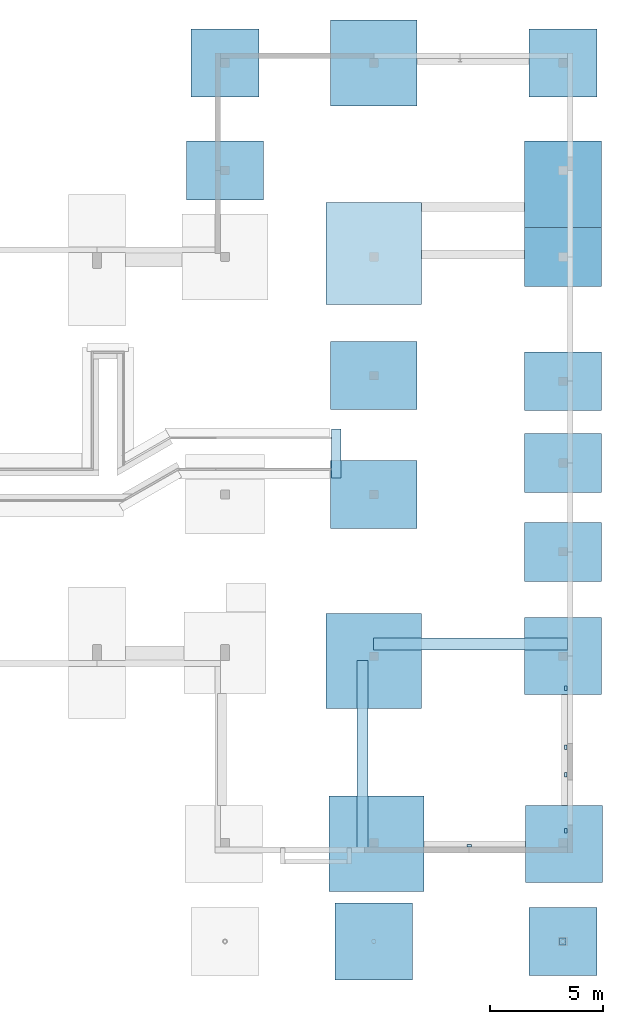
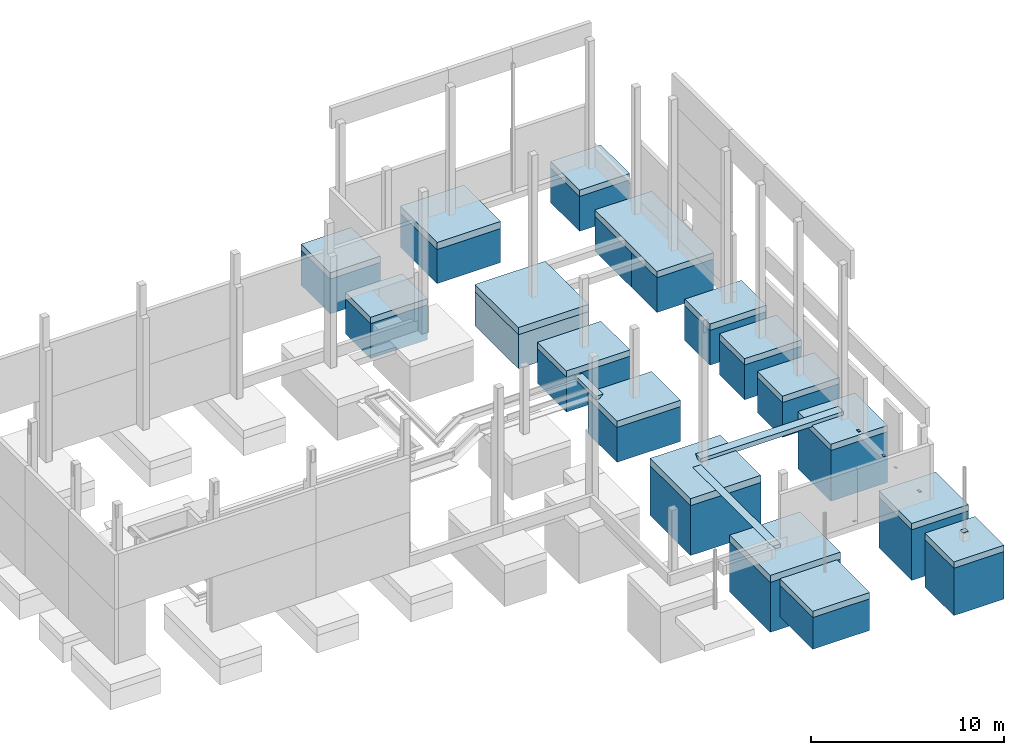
# One storey, part 8 of 12: 38 slabs, 6 plates.
"""IFC4X3_ADD2 building model written with IfcOpenShell, lengths in millimetres."""

from ifc_helpers import new_model, si_unit, direction, frame, frame_2d, origin_with_axes, place, context, subcontext, project, spatial, polyline, rectangle, outline, extrude, material, type_object, element, save


model = new_model("IFC4X3_ADD2")

# Units and contexts
model_context = context("Model", 3, precision=1e-05, world=origin_with_axes(), true_north=direction((0.0, 1.0)))
body_context = subcontext(model_context, "Body", "Model", "MODEL_VIEW")
ifc_project = project(units=[si_unit("LENGTHUNIT", "METRE", prefix="MILLI"), si_unit("AREAUNIT", "SQUARE_METRE"), si_unit("VOLUMEUNIT", "CUBIC_METRE"), si_unit("PLANEANGLEUNIT", "RADIAN"), si_unit("TIMEUNIT", "SECOND"), si_unit("MASSUNIT", "GRAM")], contexts=[model_context])

# Site, building, storey
site_placement = place(None, origin_with_axes())
site = spatial("IfcSite", under=ifc_project, at=site_placement, Name="Site", CompositionType="ELEMENT")
building_placement = place(site_placement, origin_with_axes())
building = spatial("IfcBuilding", under=site, at=building_placement, Name="IFC Building Story")
storey_placement = place(building_placement, frame((0.0, 0.0, -800.0), z_axis=(0.0, 0.0, 1.0), x_axis=(1.0, 0.0, 0.0)))
storey = spatial("IfcBuildingStorey", under=building, at=storey_placement, Name="FOND 00 (0)", Elevation=-800.0)

# Slabs
ifc_material_1 = material(Name="BS_16_Plot en béton armé coulé sur place")
slab_type_1 = type_object("IfcSlabType", Name="BS_16_Plot en béton armé coulé sur place 450", PredefinedType="FLOOR", material=ifc_material_1)
slab_1_placement = place(storey_placement, frame((38061.6894781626, 24450.0, -450.0), z_axis=(0.0, 0.0, 1.0), x_axis=(1.0, 0.0, 0.0)))
element("IfcSlab", 1, at=slab_1_placement, inside=storey, type_object=slab_type_1, Name="BS_17_SFO_UN_Plot rectangulaire:B.A. 380x380x45cm", ObjectType="BS_17_SFO_UN_Plot rectangulaire:B.A. 380x380x45cm", PredefinedType="BASESLAB", context=body_context, shape_type="SweptSolid", body=[
    extrude(rectangle(XDim=3800.0, YDim=3800.0, at=frame_2d((0.0, 5.95523630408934e-12), x_axis=(0.0, 1.0))), frame((1900.0, 1900.0, 0.0), z_axis=(0.0, 0.0, 1.0), x_axis=(1.0, 0.0, 0.0)), (0.0, 0.0, 1.0), 450.0),
])
slab_2_placement = place(storey_placement, frame((37861.6894781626, -2120.0, -450.0), z_axis=(0.0, 0.0, 1.0), x_axis=(1.0, 0.0, 0.0)))
element("IfcSlab", 2, at=slab_2_placement, inside=storey, type_object=slab_type_1, Name="BS_17_SFO_UN_Plot rectangulaire:B.A. 420x420x45cm", ObjectType="BS_17_SFO_UN_Plot rectangulaire:B.A. 420x420x45cm", PredefinedType="BASESLAB", context=body_context, shape_type="SweptSolid", body=[
    extrude(rectangle(XDim=4200.0, YDim=4200.0, at=frame_2d((0.0, 5.95523630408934e-12), x_axis=(0.0, 1.0))), frame((2100.0, 2100.0, 0.0), z_axis=(0.0, 0.0, 1.0), x_axis=(1.0, 0.0, 0.0)), (0.0, 0.0, 1.0), 450.0),
])
slab_3_placement = place(storey_placement, frame((37976.6894781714, -10180.00008672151, -450.0), z_axis=(0.0, 0.0, 1.0), x_axis=(1.0, 0.0, 0.0)))
element("IfcSlab", 3, at=slab_3_placement, inside=storey, type_object=slab_type_1, Name="BS_17_SFO_UN_Plot rectangulaire:B.A. 420x420x45cm", ObjectType="BS_17_SFO_UN_Plot rectangulaire:B.A. 420x420x45cm", PredefinedType="BASESLAB", context=body_context, shape_type="SweptSolid", body=[
    extrude(rectangle(XDim=4199.999999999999, YDim=4200.0, at=frame_2d((0.0, 5.95523630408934e-12), x_axis=(0.0, 1.0))), frame((2100.0, 2100.0, 0.0), z_axis=(0.0, 0.0, 1.0), x_axis=(1.0, 0.0, 0.0)), (0.0, 0.0, 1.0), 450.0),
])
slab_4_placement = place(storey_placement, frame((37861.6894781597, 20195.0000000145, -450.0), z_axis=(0.0, 0.0, 1.0), x_axis=(0.0, -1.0, 0.0)))
element("IfcSlab", 4, at=slab_4_placement, inside=storey, type_object=slab_type_1, Name="BS_17_SFO_UN_Plot rectangulaire:B.A. 420x450x45cm", ObjectType="BS_17_SFO_UN_Plot rectangulaire:B.A. 420x450x45cm", PredefinedType="BASESLAB", context=body_context, shape_type="SweptSolid", body=[
    extrude(rectangle(XDim=4500.000000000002, YDim=4200.0, at=frame_2d((0.0, 5.95523630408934e-12), x_axis=(-1.0, 0.0))), frame((2250.0, 2100.0, 0.0), z_axis=(0.0, 0.0, 1.0), x_axis=(1.0, 0.0, 0.0)), (0.0, 0.0, 1.0), 450.0),
])
slab_type_2 = type_object("IfcSlabType", Name="BS_16_Plot en béton armé coulé sur place 400", PredefinedType="FLOOR", material=ifc_material_1)
slab_5_placement = place(storey_placement, frame((38061.6894781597, 11063.8396532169, -400.0), z_axis=(0.0, 0.0, 1.0), x_axis=(1.0, 0.0, 0.0)))
element("IfcSlab", 5, at=slab_5_placement, inside=storey, type_object=slab_type_2, Name="BS_17_SFO_UN_Plot rectangulaire:B.A. 380x300x40cm", ObjectType="BS_17_SFO_UN_Plot rectangulaire:B.A. 380x300x40cm", PredefinedType="BASESLAB", context=body_context, shape_type="SweptSolid", body=[
    extrude(rectangle(XDim=3800.0, YDim=3000.0, at=frame_2d((0.0, 5.95523630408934e-12), x_axis=(1.0, 0.0))), frame((1900.0, 1500.0, 0.0), z_axis=(0.0, 0.0, 1.0), x_axis=(1.0, 0.0, 0.0)), (0.0, 0.0, 1.0), 400.0),
])
for number, where, z_axis, x_axis in (
    (6, (46601.68947815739, 11020.0, -400.0), (0.0, 0.0, 1.0), (1.0, 0.0, 0.0)),
    (7, (46601.68947815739, 7410.0, -400.0), (0.0, 0.0, 1.0), (1.0, 0.0, 0.0)),
    (8, (46601.68947815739, 3499.41982671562, -400.0), (0.0, 0.0, 1.0), (1.0, 0.0, 0.0)),
):
    element("IfcSlab", number, at=place(storey_placement, frame(where, z_axis=z_axis, x_axis=x_axis)), inside=storey, type_object=slab_type_2, Name="BS_17_SFO_UN_Plot rectangulaire:B.A. 340x260x40cm", ObjectType="BS_17_SFO_UN_Plot rectangulaire:B.A. 340x260x40cm", PredefinedType="BASESLAB", context=body_context, shape_type="SweptSolid", body=[
        extrude(rectangle(XDim=3400.0, YDim=2600.0, at=frame_2d((0.0, 5.95523630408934e-12), x_axis=(1.0, 0.0))), frame((1700.0, 1300.0, 0.0), z_axis=(0.0, 0.0, 1.0), x_axis=(1.0, 0.0, 0.0)), (0.0, 0.0, 1.0), 400.0),
    ])
for number, where, z_axis, x_axis in (
    (9, (31901.6894781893, 24850.0, -400.0), (0.0, 0.0, 1.0), (1.0, 0.0, 0.0)),
    (10, (46801.68947815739, 24850.0, -400.0), (0.0, 0.0, 1.0), (1.0, 0.0, 0.0)),
):
    element("IfcSlab", number, at=place(storey_placement, frame(where, z_axis=z_axis, x_axis=x_axis)), inside=storey, type_object=slab_type_2, Name="BS_17_SFO_UN_Plot rectangulaire:B.A. 300x300x40cm", ObjectType="BS_17_SFO_UN_Plot rectangulaire:B.A. 300x300x40cm", PredefinedType="BASESLAB", context=body_context, shape_type="SweptSolid", body=[
        extrude(rectangle(XDim=3000.0, YDim=3000.0, at=frame_2d((0.0, 5.95523630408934e-12), x_axis=(0.0, 1.0))), frame((1500.0, 1500.0, 0.0), z_axis=(0.0, 0.0, 1.0), x_axis=(1.0, 0.0, 0.0)), (0.0, 0.0, 1.0), 400.0),
    ])
slab_6_placement = place(storey_placement, frame((46601.68947815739, -1500.0, -400.0), z_axis=(0.0, 0.0, 1.0), x_axis=(1.0, 0.0, 0.0)))
element("IfcSlab", 11, at=slab_6_placement, inside=storey, type_object=slab_type_2, Name="BS_17_SFO_UN_Plot rectangulaire:B.A. 340x340x40cm", ObjectType="BS_17_SFO_UN_Plot rectangulaire:B.A. 340x340x40cm", PredefinedType="BASESLAB", context=body_context, shape_type="SweptSolid", body=[
    extrude(rectangle(XDim=3400.0, YDim=3400.0, at=frame_2d((0.0, 5.95523630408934e-12), x_axis=(0.0, 1.0))), frame((1700.0, 1700.0, 0.0), z_axis=(0.0, 0.0, 1.0), x_axis=(1.0, 0.0, 0.0)), (0.0, 0.0, 1.0), 400.0),
])
slab_7_placement = place(storey_placement, frame((38061.6894781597, 5828.83965321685, -400.0), z_axis=(0.0, 0.0, 1.0), x_axis=(1.0, 0.0, 0.0)))
element("IfcSlab", 12, at=slab_7_placement, inside=storey, type_object=slab_type_2, Name="BS_17_SFO_UN_Plot rectangulaire:B.A. 380x300x40cm", ObjectType="BS_17_SFO_UN_Plot rectangulaire:B.A. 380x300x40cm", PredefinedType="BASESLAB", context=body_context, shape_type="SweptSolid", body=[
    extrude(rectangle(XDim=3800.0, YDim=3000.0, at=frame_2d((0.0, 5.95523630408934e-12), x_axis=(1.0, 0.0))), frame((1900.0, 1500.0, 0.0), z_axis=(0.0, 0.0, 1.0), x_axis=(1.0, 0.0, 0.0)), (0.0, 0.0, 1.0), 400.0),
])
for number, where, z_axis, x_axis in (
    (13, (46656.68947815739, -9780.00008672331, -400.0), (0.0, 0.0, 1.0), (1.0, 0.0, 0.0)),
    (14, (38261.6894781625, -14085.0000000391, -400.0), (0.0, 0.0, 1.0), (1.0, 0.0, 0.0)),
):
    element("IfcSlab", number, at=place(storey_placement, frame(where, z_axis=z_axis, x_axis=x_axis)), inside=storey, type_object=slab_type_2, Name="BS_17_SFO_UN_Plot rectangulaire:B.A. 340x340x40cm", ObjectType="BS_17_SFO_UN_Plot rectangulaire:B.A. 340x340x40cm", PredefinedType="BASESLAB", context=body_context, shape_type="SweptSolid", body=[
        extrude(rectangle(XDim=3400.0, YDim=3400.0, at=frame_2d((0.0, 5.95523630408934e-12), x_axis=(0.0, 1.0))), frame((1700.0, 1700.0, 0.0), z_axis=(0.0, 0.0, 1.0), x_axis=(1.0, 0.0, 0.0)), (0.0, 0.0, 1.0), 400.0),
    ])
slab_8_placement = place(storey_placement, frame((31701.6894781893, 20320.0, -400.0), z_axis=(0.0, 0.0, 1.0), x_axis=(1.0, 0.0, 0.0)))
element("IfcSlab", 15, at=slab_8_placement, inside=storey, type_object=slab_type_2, Name="BS_17_SFO_UN_Plot rectangulaire:B.A. 340x260x40cm", ObjectType="BS_17_SFO_UN_Plot rectangulaire:B.A. 340x260x40cm", PredefinedType="BASESLAB", context=body_context, shape_type="SweptSolid", body=[
    extrude(rectangle(XDim=3400.0, YDim=2600.0, at=frame_2d((0.0, 5.95523630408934e-12), x_axis=(1.0, 0.0))), frame((1700.0, 1300.0, 0.0), z_axis=(0.0, 0.0, 1.0), x_axis=(1.0, 0.0, 0.0)), (0.0, 0.0, 1.0), 400.0),
])
slab_9_placement = place(storey_placement, frame((46601.6894781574, 22920.00000003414, -400.0), z_axis=(0.0, 0.0, 1.0), x_axis=(0.0, -1.0, 0.0)))
element("IfcSlab", 16, at=slab_9_placement, inside=storey, type_object=slab_type_2, Name="BS_17_SFO_UN_Plot rectangulaire:B.A. 340x642x40cm", ObjectType="BS_17_SFO_UN_Plot rectangulaire:B.A. 340x642x40cm", PredefinedType="BASESLAB", context=body_context, shape_type="SweptSolid", body=[
    extrude(rectangle(XDim=6420.0, YDim=3400.0, at=frame_2d((0.0, 5.95523630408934e-12), x_axis=(-1.0, 0.0))), frame((3210.0, 1700.0, 0.0), z_axis=(0.0, 0.0, 1.0), x_axis=(1.0, 0.0, 0.0)), (0.0, 0.0, 1.0), 400.0),
])
slab_10_placement = place(storey_placement, frame((46801.68947815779, -13885.0000000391, -390.0), z_axis=(0.0, 0.0, 1.0), x_axis=(1.0, 0.0, 0.0)))
element("IfcSlab", 17, at=slab_10_placement, inside=storey, type_object=slab_type_2, Name="BS_17_SFO_UN_Plot rectangulaire:B.A. 300x300x40cm", ObjectType="BS_17_SFO_UN_Plot rectangulaire:B.A. 300x300x40cm", PredefinedType="BASESLAB", context=body_context, shape_type="SweptSolid", body=[
    extrude(rectangle(XDim=3000.0, YDim=3000.0, at=frame_2d((0.0, 5.95523630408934e-12), x_axis=(0.0, 1.0))), frame((1500.0, 1500.0, 0.0), z_axis=(0.0, 0.0, 1.0), x_axis=(1.0, 0.0, 0.0)), (0.0, 0.0, 1.0), 400.0),
])
ifc_material_2 = material(Name="BS_16_Plot en béton maigre")
slab_type_3 = type_object("IfcSlabType", Name="BS_16_Plot en béton maigre 3200", PredefinedType="FLOOR", material=ifc_material_2)
for number, where, z_axis, x_axis in (
    (18, (46601.68947815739, -1500.0, -3600.0), (0.0, 0.0, 1.0), (1.0, 0.0, 0.0)),
    (19, (46656.68947815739, -9780.00008672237, -3600.0), (0.0, 0.0, 1.0), (1.0, 0.0, 0.0)),
):
    element("IfcSlab", number, at=place(storey_placement, frame(where, z_axis=z_axis, x_axis=x_axis)), inside=storey, type_object=slab_type_3, Name="BS_17_SFO_UN_Plot rectangulaire:B.A. 340x340x320cm (béton maigre)", ObjectType="BS_17_SFO_UN_Plot rectangulaire:B.A. 340x340x320cm (béton maigre)", PredefinedType="BASESLAB", context=body_context, shape_type="SweptSolid", body=[
        extrude(rectangle(XDim=3400.0, YDim=3400.0, at=frame_2d((0.0, 5.95523630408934e-12), x_axis=(0.0, 1.0))), frame((1700.0, 1700.0, 0.0), z_axis=(0.0, 0.0, 1.0), x_axis=(1.0, 0.0, 0.0)), (0.0, 0.0, 1.0), 3200.0),
    ])
slab_type_4 = type_object("IfcSlabType", Name="BS_16_Plot en béton maigre 3150", PredefinedType="FLOOR", material=ifc_material_2)
slab_11_placement = place(storey_placement, frame((37861.6894781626, -2120.0, -3600.0), z_axis=(0.0, 0.0, 1.0), x_axis=(1.0, 0.0, 0.0)))
element("IfcSlab", 20, at=slab_11_placement, inside=storey, type_object=slab_type_4, Name="BS_17_SFO_UN_Plot rectangulaire:B.A. 420x420x315cm (béton maigre)", ObjectType="BS_17_SFO_UN_Plot rectangulaire:B.A. 420x420x315cm (béton maigre)", PredefinedType="BASESLAB", context=body_context, shape_type="SweptSolid", body=[
    extrude(rectangle(XDim=4200.0, YDim=4200.0, at=frame_2d((0.0, 5.95523630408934e-12), x_axis=(0.0, 1.0))), frame((2100.0, 2100.0, 0.0), z_axis=(0.0, 0.0, 1.0), x_axis=(1.0, 0.0, 0.0)), (0.0, 0.0, 1.0), 3150.0),
])
slab_12_placement = place(storey_placement, frame((37976.6894781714, -10180.00008672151, -3600.0), z_axis=(0.0, 0.0, 1.0), x_axis=(1.0, 0.0, 0.0)))
element("IfcSlab", 21, at=slab_12_placement, inside=storey, type_object=slab_type_4, Name="BS_17_SFO_UN_Plot rectangulaire:B.A. 420x420x315cm (béton maigre)", ObjectType="BS_17_SFO_UN_Plot rectangulaire:B.A. 420x420x315cm (béton maigre)", PredefinedType="BASESLAB", context=body_context, shape_type="SweptSolid", body=[
    extrude(rectangle(XDim=4199.999999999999, YDim=4200.0, at=frame_2d((0.0, 5.95523630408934e-12), x_axis=(0.0, 1.0))), frame((2100.0, 2100.0, 0.0), z_axis=(0.0, 0.0, 1.0), x_axis=(1.0, 0.0, 0.0)), (0.0, 0.0, 1.0), 3150.0),
])
slab_type_5 = type_object("IfcSlabType", Name="BS_16_Plot en béton maigre 2200", PredefinedType="FLOOR", material=ifc_material_2)
for number, where, z_axis, x_axis in (
    (22, (38061.6894781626, 5828.83965321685, -2600.0), (0.0, 0.0, 1.0), (1.0, 0.0, 0.0)),
    (23, (38061.6894781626, 11063.8396532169, -2600.0), (0.0, 0.0, 1.0), (1.0, 0.0, 0.0)),
):
    element("IfcSlab", number, at=place(storey_placement, frame(where, z_axis=z_axis, x_axis=x_axis)), inside=storey, type_object=slab_type_5, Name="BS_17_SFO_UN_Plot rectangulaire:B.A. 380x300x220cm (béton maigre)", ObjectType="BS_17_SFO_UN_Plot rectangulaire:B.A. 380x300x220cm (béton maigre)", PredefinedType="BASESLAB", context=body_context, shape_type="SweptSolid", body=[
        extrude(rectangle(XDim=3800.0, YDim=3000.0, at=frame_2d((0.0, 5.95523630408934e-12), x_axis=(1.0, 0.0))), frame((1900.0, 1500.0, 0.0), z_axis=(0.0, 0.0, 1.0), x_axis=(1.0, 0.0, 0.0)), (0.0, 0.0, 1.0), 2200.0),
    ])
for number, where, z_axis, x_axis in (
    (24, (31901.6894781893, 24850.0, -2600.0), (0.0, 0.0, 1.0), (1.0, 0.0, 0.0)),
    (25, (46801.68947815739, 24850.0, -2600.0), (0.0, 0.0, 1.0), (1.0, 0.0, 0.0)),
):
    element("IfcSlab", number, at=place(storey_placement, frame(where, z_axis=z_axis, x_axis=x_axis)), inside=storey, type_object=slab_type_5, Name="BS_17_SFO_UN_Plot rectangulaire:B.A. 300x300x220cm (béton maigre)", ObjectType="BS_17_SFO_UN_Plot rectangulaire:B.A. 300x300x220cm (béton maigre)", PredefinedType="BASESLAB", context=body_context, shape_type="SweptSolid", body=[
        extrude(rectangle(XDim=3000.0, YDim=3000.0, at=frame_2d((0.0, 5.95523630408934e-12), x_axis=(0.0, 1.0))), frame((1500.0, 1500.0, 0.0), z_axis=(0.0, 0.0, 1.0), x_axis=(1.0, 0.0, 0.0)), (0.0, 0.0, 1.0), 2200.0),
    ])
slab_13_placement = place(storey_placement, frame((46601.68947815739, 22920.0, -2600.0), z_axis=(0.0, 0.0, 1.0), x_axis=(0.0, -1.0, 0.0)))
element("IfcSlab", 26, at=slab_13_placement, inside=storey, type_object=slab_type_5, Name="BS_17_SFO_UN_Plot rectangulaire:B.A. 340x382x220cm (béton maigre)", ObjectType="BS_17_SFO_UN_Plot rectangulaire:B.A. 340x382x220cm (béton maigre)", PredefinedType="BASESLAB", context=body_context, shape_type="SweptSolid", body=[
    extrude(rectangle(XDim=3820.0, YDim=3400.0, at=frame_2d((0.0, 5.95523630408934e-12), x_axis=(-1.0, 0.0))), frame((1910.0, 1700.0, 0.0), z_axis=(0.0, 0.0, 1.0), x_axis=(1.0, 0.0, 0.0)), (0.0, 0.0, 1.0), 2200.0),
])
for number, where, z_axis, x_axis in (
    (27, (46601.68947815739, 16500.0, -2600.0), (0.0, 0.0, 1.0), (1.0, 0.0, 0.0)),
    (28, (46601.68947816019, 11020.0, -2600.0), (0.0, 0.0, 1.0), (1.0, 0.0, 0.0)),
    (29, (46601.68947816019, 7410.0, -2600.0), (0.0, 0.0, 1.0), (1.0, 0.0, 0.0)),
    (30, (46601.68947816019, 3499.41982671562, -2600.0), (0.0, 0.0, 1.0), (1.0, 0.0, 0.0)),
    (31, (31701.6894781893, 20320.0, -2600.0), (0.0, 0.0, 1.0), (1.0, 0.0, 0.0)),
):
    element("IfcSlab", number, at=place(storey_placement, frame(where, z_axis=z_axis, x_axis=x_axis)), inside=storey, type_object=slab_type_5, Name="BS_17_SFO_UN_Plot rectangulaire:B.A. 340x260x220cm (béton maigre)", ObjectType="BS_17_SFO_UN_Plot rectangulaire:B.A. 340x260x220cm (béton maigre)", PredefinedType="BASESLAB", context=body_context, shape_type="SweptSolid", body=[
        extrude(rectangle(XDim=3400.0, YDim=2600.0, at=frame_2d((0.0, 5.95523630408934e-12), x_axis=(1.0, 0.0))), frame((1700.0, 1300.0, 0.0), z_axis=(0.0, 0.0, 1.0), x_axis=(1.0, 0.0, 0.0)), (0.0, 0.0, 1.0), 2200.0),
    ])
slab_type_6 = type_object("IfcSlabType", Name="BS_16_Plot en béton maigre 2150", PredefinedType="FLOOR", material=ifc_material_2)
slab_14_placement = place(storey_placement, frame((37861.6894781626, 20195.0000000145, -2600.0), z_axis=(0.0, 0.0, 1.0), x_axis=(0.0, -1.0, 0.0)))
element("IfcSlab", 32, at=slab_14_placement, inside=storey, type_object=slab_type_6, Name="BS_17_SFO_UN_Plot rectangulaire:B.A. 420x450x215cm (béton maigre)", ObjectType="BS_17_SFO_UN_Plot rectangulaire:B.A. 420x450x215cm (béton maigre)", PredefinedType="BASESLAB", context=body_context, shape_type="SweptSolid", body=[
    extrude(rectangle(XDim=4500.000000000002, YDim=4200.0, at=frame_2d((0.0, 5.95523630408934e-12), x_axis=(-1.0, 0.0))), frame((2250.0, 2100.0, 0.0), z_axis=(0.0, 0.0, 1.0), x_axis=(1.0, 0.0, 0.0)), (0.0, 0.0, 1.0), 2150.0),
])
slab_15_placement = place(storey_placement, frame((38061.6894781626, 24450.0, -2600.0), z_axis=(0.0, 0.0, 1.0), x_axis=(1.0, 0.0, 0.0)))
element("IfcSlab", 33, at=slab_15_placement, inside=storey, type_object=slab_type_6, Name="BS_17_SFO_UN_Plot rectangulaire:B.A. 380x380x215cm (béton maigre)", ObjectType="BS_17_SFO_UN_Plot rectangulaire:B.A. 380x380x215cm (béton maigre)", PredefinedType="BASESLAB", context=body_context, shape_type="SweptSolid", body=[
    extrude(rectangle(XDim=3800.0, YDim=3800.0, at=frame_2d((0.0, 5.95523630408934e-12), x_axis=(0.0, 1.0))), frame((1900.0, 1900.0, 0.0), z_axis=(0.0, 0.0, 1.0), x_axis=(1.0, 0.0, 0.0)), (0.0, 0.0, 1.0), 2150.0),
])
ifc_material_3 = material(Name="BS_13_Sable stabilisé(Remblai)")
slab_type_7 = type_object("IfcSlabType", Name="BS_13_Sable stabilisé(Remblai) 0", PredefinedType="FLOOR", material=ifc_material_3)
slab_16_placement = place(storey_placement, frame((39219.10241394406, 0.1663241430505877, -80.0), z_axis=(0.0, 0.0, 1.0), x_axis=(0.0, -1.0, 0.0)))
element("IfcSlab", 34, at=slab_16_placement, inside=storey, type_object=slab_type_7, Name="Remblai 9:Remblai 9", ObjectType="Remblai 9:Remblai 9", PredefinedType="FLOOR", context=body_context, shape_type="SweptSolid", body=[
    extrude(outline(polyline([(-150.0, 166.2935321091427), (150.0, 166.2935321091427), (150.0, -316.2935321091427), (-150.0, -16.29353210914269), (-150.0, 166.2935321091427)])), frame((8249.87623747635, 316.2935321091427, 150.0), z_axis=(-1.0, 0.0, 0.0), x_axis=(0.0, 0.0, 1.0)), (0.0, 0.0, 1.0), 8249.87623747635),
])
slab_17_placement = place(storey_placement, frame((38089.61781349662, 10205.92522017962, -33.07807421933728), z_axis=(0.0, 0.0, 1.0), x_axis=(0.0, -1.0, 0.0)))
element("IfcSlab", 35, at=slab_17_placement, inside=storey, type_object=slab_type_7, Name="Remblai 19:Remblai 19", ObjectType="Remblai 19:Remblai 19", PredefinedType="FLOOR", context=body_context, shape_type="SweptSolid", body=[
    extrude(outline(polyline([(-126.5390371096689, 26.22727667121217), (126.5390371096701, 279.3053508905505), (126.539037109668, -152.7663137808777), (-126.5390371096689, -152.7663137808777), (-126.5390371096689, 26.22727667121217)])), frame((2159.579520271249, 152.7663137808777, 126.5390371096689), z_axis=(-1.0, 0.0, 0.0), x_axis=(0.0, 0.0, 1.0)), (0.0, 0.0, 1.0), 2159.57952027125),
])
slab_18_placement = place(storey_placement, frame((39951.6894781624, 460.000000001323, -80.0), z_axis=(0.0, 0.0, 1.0), x_axis=(1.0, 0.0, 0.0)))
element("IfcSlab", 36, at=slab_18_placement, inside=storey, type_object=slab_type_7, Name="Remblai 2:Remblai 2", ObjectType="Remblai 2:Remblai 2", PredefinedType="FLOOR", context=body_context, shape_type="SweptSolid", body=[
    extrude(outline(polyline([(-150.0, 191.2935321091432), (150.0, 191.2935321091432), (150.0, -341.2935321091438), (-150.0, -41.29353210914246), (-150.0, 191.2935321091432)])), frame((0.0, 191.2935321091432, 150.0), z_axis=(1.0, 0.0, 0.0), x_axis=(0.0, 0.0, 1.0)), (0.0, 0.0, 1.0), 8549.99999999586),
])
slab_type_8 = type_object("IfcSlabType", Name="BS_16_Plot en béton maigre 2000", PredefinedType="FLOOR", material=ifc_material_2)
slab_19_placement = place(storey_placement, frame((38261.6894781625, -14085.0000000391, -2400.0), z_axis=(0.0, 0.0, 1.0), x_axis=(1.0, 0.0, 0.0)))
element("IfcSlab", 37, at=slab_19_placement, inside=storey, type_object=slab_type_8, Name="BS_17_SFO_UN_Plot rectangulaire:B.A. 340x340x200cm (béton maigre)", ObjectType="BS_17_SFO_UN_Plot rectangulaire:B.A. 340x340x200cm (béton maigre)", PredefinedType="BASESLAB", context=body_context, shape_type="SweptSolid", body=[
    extrude(rectangle(XDim=3400.0, YDim=3400.0, at=frame_2d((0.0, 5.95523630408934e-12), x_axis=(0.0, 1.0))), frame((1700.0, 1700.0, 0.0), z_axis=(0.0, 0.0, 1.0), x_axis=(1.0, 0.0, 0.0)), (0.0, 0.0, 1.0), 2000.0),
])
slab_type_9 = type_object("IfcSlabType", Name="BS_16_Plot en béton maigre 0", PredefinedType="FLOOR", material=ifc_material_2)
slab_20_placement = place(storey_placement, frame((46801.68947815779, -13885.0000000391, -3390.0), z_axis=(0.0, 0.0, 1.0), x_axis=(1.0, 0.0, 0.0)))
element("IfcSlab", 38, at=slab_20_placement, inside=storey, type_object=slab_type_9, Name="BS_17_SFO_UN_Plot rectangulaire:B.A. 300x300x300cm (béton maigre)", ObjectType="BS_17_SFO_UN_Plot rectangulaire:B.A. 300x300x300cm (béton maigre)", PredefinedType="BASESLAB", context=body_context, shape_type="SweptSolid", body=[
    extrude(rectangle(XDim=3000.0, YDim=3000.0, at=frame_2d((0.0, 5.95523630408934e-12), x_axis=(0.0, 1.0))), frame((1500.0, 1500.0, 0.0), z_axis=(0.0, 0.0, 1.0), x_axis=(1.0, 0.0, 0.0)), (0.0, 0.0, 1.0), 3000.0),
])

# Plates
ifc_material_4 = material(Name="Acier - B 500 B")
for number, where, z_axis, x_axis in (
    (39, (48368.689348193, -3715.000018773, 50.0), (0.0, 0.0, 1.0), (0.0, -1.0, 0.0)),
    (40, (48368.689348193, -1125.000018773, 50.0), (0.0, 0.0, 1.0), (0.0, -1.0, 0.0)),
):
    element("IfcPlate", number, at=place(storey_placement, frame(where, z_axis=z_axis, x_axis=x_axis)), inside=storey, material=ifc_material_4, Name="-", ObjectType="Aucun", context=body_context, shape_type="SweptSolid", body=[
        extrude(rectangle(XDim=200.0, YDim=123.0, at=frame_2d((0.0, 5.95523630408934e-12), x_axis=(-1.0, 0.0))), frame((100.0, 61.5, 0.0), z_axis=(0.0, 0.0, 1.0), x_axis=(1.0, 0.0, 0.0)), (0.0, 0.0, 1.0), 10.0),
    ])
plate_1_placement = place(storey_placement, frame((44064.689348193, -8225.046318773, 50.0), z_axis=(0.0, 0.0, 1.0), x_axis=(1.0, 0.0, 0.0)))
element("IfcPlate", 41, at=plate_1_placement, inside=storey, material=ifc_material_4, Name="-", ObjectType="Aucun", context=body_context, shape_type="SweptSolid", body=[
    extrude(rectangle(XDim=200.0, YDim=123.0, at=frame_2d((0.0, 5.95523630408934e-12), x_axis=(1.0, 0.0))), frame((100.0, 61.5, 0.0), z_axis=(0.0, 0.0, 1.0), x_axis=(1.0, 0.0, 0.0)), (0.0, 0.0, 1.0), 10.0),
])
plate_2_placement = place(storey_placement, frame((48146.689348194, -12538.486405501, 540.0), z_axis=(0.0, 0.0, 1.0), x_axis=(1.0, 0.0, 0.0)))
element("IfcPlate", 42, at=plate_2_placement, inside=storey, material=ifc_material_4, Name="-", ObjectType="Aucun", context=body_context, shape_type="SweptSolid", body=[
    extrude(rectangle(XDim=300.0, YDim=300.0, at=frame_2d((0.0, 5.95523630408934e-12), x_axis=(1.0, 0.0))), frame((150.0, 150.0, 0.0), z_axis=(0.0, 0.0, 1.0), x_axis=(1.0, 0.0, 0.0)), (0.0, 0.0, 1.0), 15.0),
])
for number, where, z_axis, x_axis in (
    (43, (48368.689348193, -7405.605318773, 50.0), (0.0, 0.0, 1.0), (0.0, -1.0, 0.0)),
    (44, (48368.689348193, -4940.605318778, 50.0), (0.0, 0.0, 1.0), (0.0, -1.0, 0.0)),
):
    element("IfcPlate", number, at=place(storey_placement, frame(where, z_axis=z_axis, x_axis=x_axis)), inside=storey, material=ifc_material_4, Name="-", ObjectType="Aucun", context=body_context, shape_type="SweptSolid", body=[
        extrude(rectangle(XDim=200.0, YDim=123.0, at=frame_2d((0.0, 5.95523630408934e-12), x_axis=(-1.0, 0.0))), frame((100.0, 61.5, 0.0), z_axis=(0.0, 0.0, 1.0), x_axis=(1.0, 0.0, 0.0)), (0.0, 0.0, 1.0), 10.0),
    ])

save(model, "model.ifc")
